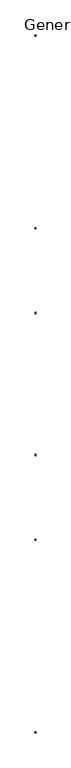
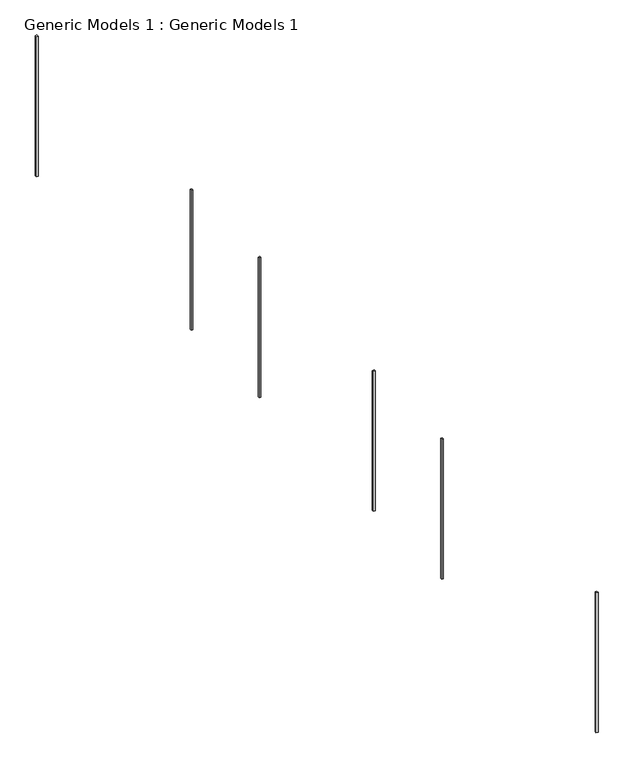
"""IFC4 building model written with IfcOpenShell, lengths in millimetres: proxy geometry, Generic Models 1 : Generic Models 1."""

import ifcopenshell
import ifcopenshell.guid

model = None  # the IFC model being written
_history = None  # IfcOwnerHistory: only IFC2X3 demands one
_inside = {}  # id of a spatial element -> (the spatial element, [elements in it])
_under = {}  # id of a project, library or spatial element -> (it, [spatial elements below it])
_declared = {}  # id of a project -> (the project, [libraries it declares])
_typed = {}  # id of a type object -> (the type object, [elements of that type])
_made_of = {}  # id of a material, layer set ... -> (it, [elements and type objects made of it])


def new_model(schema):
    """Start an empty IFC model of exactly this schema.

    Asked for "IFC4X3", IfcOpenShell would pick the latest addendum, in which some entities
    have other attributes; the version numbers below select the first issue.
    IFC2X3 requires an IfcOwnerHistory on every rooted entity: one is made here for all.
    """
    global model, _history
    if schema == "IFC4X3":
        model = ifcopenshell.file(schema_version=(4, 3, 0, 0))
    else:
        model = ifcopenshell.file(schema=schema)
    _inside.clear()
    _under.clear()
    _declared.clear()
    _typed.clear()
    _made_of.clear()
    _history = None
    if model.schema == "IFC2X3":
        org = make("IfcOrganization", Name="unknown")
        user = make(
            "IfcPersonAndOrganization",
            ThePerson=make("IfcPerson", FamilyName="unknown"),
            TheOrganization=org,
        )
        app = make(
            "IfcApplication",
            ApplicationDeveloper=org,
            Version="unknown",
            ApplicationFullName="unknown",
            ApplicationIdentifier="unknown",
        )
        _history = make(
            "IfcOwnerHistory",
            OwningUser=user,
            OwningApplication=app,
            ChangeAction="ADDED",
            CreationDate=0,
        )
    return model


def make(cls, **values):
    """One entity of the class cls with the attributes given. An attribute that is None is left unset."""
    return model.create_entity(
        cls, **{name: value for name, value in values.items() if value is not None}
    )


def rooted(cls, **values):
    """An entity with a GlobalId (a new one), such as an element, a storey or a relation."""
    return make(cls, GlobalId=ifcopenshell.guid.new(), OwnerHistory=_history, **values)


def si_unit(unit_type, name, prefix=None):
    """IfcSIUnit, for example si_unit("LENGTHUNIT", "METRE", prefix="MILLI")."""
    return make("IfcSIUnit", UnitType=unit_type, Prefix=prefix, Name=name)


def assignment(units):
    """IfcUnitAssignment: the units of a project."""
    return None if units is None else make("IfcUnitAssignment", Units=units)


def point(xyz):
    """IfcCartesianPoint."""
    return None if xyz is None else make("IfcCartesianPoint", Coordinates=xyz)


def direction(xyz):
    """IfcDirection."""
    return None if xyz is None else make("IfcDirection", DirectionRatios=xyz)


def frame(location, z_axis=None, x_axis=None):
    """IfcAxis2Placement3D, a coordinate frame: its origin and axes. An axis left out is left unset."""
    return make(
        "IfcAxis2Placement3D",
        Location=point(location),
        Axis=direction(z_axis),
        RefDirection=direction(x_axis),
    )


def origin():
    """The frame at (0, 0, 0) with its axes left unset."""
    return frame((0.0, 0.0, 0.0))


def place(relative_to, where):
    """IfcLocalPlacement: puts the frame where relative to a parent placement (None: the world)."""
    return make(
        "IfcLocalPlacement", PlacementRelTo=relative_to, RelativePlacement=where
    )


def context(
    kind, dimensions, precision=None, world=None, true_north=None, identifier=None
):
    """IfcGeometricRepresentationContext, for example the 3D "Model" context."""
    return make(
        "IfcGeometricRepresentationContext",
        ContextIdentifier=identifier,
        ContextType=kind,
        CoordinateSpaceDimension=dimensions,
        Precision=precision,
        WorldCoordinateSystem=world,
        TrueNorth=true_north,
    )


def project(units=None, contexts=None):
    """IfcProject with its units and contexts."""
    return rooted(
        "IfcProject",
        Name="project",
        RepresentationContexts=contexts,
        UnitsInContext=assignment(units),
    )


def spatial(cls, under=None, at=None, **own):
    """A site, building, storey or space (cls), placed at a placement, below another one or the project."""
    s = rooted(cls, ObjectPlacement=at, **own)
    if under is not None:
        _under.setdefault(under.id(), (under, []))[1].append(s)
    return s


def polyline(points):
    """IfcPolyline through the points."""
    return make("IfcPolyline", Points=[point(p) for p in points])


def outline(outer, holes=None, kind="AREA"):
    """IfcArbitraryClosedProfileDef: a profile drawn as a closed curve; with holes, ...WithVoids."""
    if holes is None:
        return make("IfcArbitraryClosedProfileDef", ProfileType=kind, OuterCurve=outer)
    return make(
        "IfcArbitraryProfileDefWithVoids",
        ProfileType=kind,
        OuterCurve=outer,
        InnerCurves=holes,
    )


def extrude(swept, where, along, depth):
    """IfcExtrudedAreaSolid: the profile swept, set in the frame where, extruded along a direction by depth."""
    return make(
        "IfcExtrudedAreaSolid",
        SweptArea=swept,
        Position=where,
        ExtrudedDirection=direction(along),
        Depth=depth,
    )


def shape(context_of_items, identifier, shape_type, items):
    """IfcShapeRepresentation: the items that make up one representation, for example the "Body"."""
    return make(
        "IfcShapeRepresentation",
        ContextOfItems=context_of_items,
        RepresentationIdentifier=identifier,
        RepresentationType=shape_type,
        Items=items,
    )


def source(mapping_origin, context_of_items, identifier, shape_type, items):
    """IfcRepresentationMap: a shape defined once, which mapped items show again and again."""
    return make(
        "IfcRepresentationMap",
        MappingOrigin=mapping_origin,
        MappedRepresentation=shape(context_of_items, identifier, shape_type, items),
    )


def transform(
    local_origin,
    x_axis=None,
    y_axis=None,
    z_axis=None,
    scale=None,
    scale2=None,
    scale3=None,
    uniform=True,
):
    """IfcCartesianTransformationOperator3D, or its non-uniform kind. x_axis, y_axis, z_axis: its Axis1, 2, 3."""
    if uniform:
        return make(
            "IfcCartesianTransformationOperator3D",
            Axis1=direction(x_axis),
            Axis2=direction(y_axis),
            LocalOrigin=point(local_origin),
            Scale=scale,
            Axis3=direction(z_axis),
        )
    return make(
        "IfcCartesianTransformationOperator3DnonUniform",
        Axis1=direction(x_axis),
        Axis2=direction(y_axis),
        LocalOrigin=point(local_origin),
        Scale=scale,
        Axis3=direction(z_axis),
        Scale2=scale2,
        Scale3=scale3,
    )


def mapped(mapping_source, mapping_target):
    """IfcMappedItem: shows the shape of a source again, moved by a transform."""
    return make(
        "IfcMappedItem", MappingSource=mapping_source, MappingTarget=mapping_target
    )


def made_of(thing, what):
    """Note that an element or type object is made of a material, layer set ...; save() writes the relation."""
    if what is not None:
        _made_of.setdefault(what.id(), (what, []))[1].append(thing)
    return thing


def element(
    cls,
    number,
    at=None,
    inside=None,
    cuts=None,
    type_object=None,
    material=None,
    context=None,
    identifier="Body",
    shape_type=None,
    held_by="IfcProductDefinitionShape",
    body=None,
    shapes=None,
    **own,
):
    """One element of the class cls, such as IfcWall. Its Tag is "e" and its number.

    at: its placement. inside: the storey or other place that contains it. cuts: it is an
    opening in that element (IfcRelVoidsElement). A single representation is given by context,
    identifier, shape_type and body (its items); several are given by shapes. held_by: the class
    of the entity that holds the representations. save() writes the other relations.
    """
    e = rooted(cls, Tag="e%d" % number, ObjectPlacement=at, **own)
    if body is not None:
        shapes = [shape(context, identifier, shape_type, body)]
    if shapes is not None:
        e.Representation = make(held_by, Representations=shapes)
    if inside is not None:
        _inside.setdefault(inside.id(), (inside, []))[1].append(e)
    if cuts is not None:
        rooted(
            "IfcRelVoidsElement", RelatingBuildingElement=cuts, RelatedOpeningElement=e
        )
    if type_object is not None:
        _typed.setdefault(type_object.id(), (type_object, []))[1].append(e)
    return made_of(e, material)


def aggregate(whole, parts):
    """IfcRelAggregates: a whole, such as a stair, and the parts it consists of."""
    return rooted("IfcRelAggregates", RelatingObject=whole, RelatedObjects=parts)


def save(model, path):
    """Write the relations noted so far, then the file.

    IfcRelAggregates (storeys below a building ...), IfcRelContainedInSpatialStructure (elements
    in a storey), IfcRelDefinesByType, IfcRelAssociatesMaterial and IfcRelDeclares: one each for
    every whole, place, type object, material and project.
    """
    for whole, parts in _under.values():
        aggregate(whole, parts)
    for where, things in _inside.values():
        rooted(
            "IfcRelContainedInSpatialStructure",
            RelatedElements=things,
            RelatingStructure=where,
        )
    for kind, things in _typed.values():
        rooted("IfcRelDefinesByType", RelatedObjects=things, RelatingType=kind)
    for what, things in _made_of.values():
        rooted("IfcRelAssociatesMaterial", RelatedObjects=things, RelatingMaterial=what)
    for by, libraries in _declared.values():
        rooted("IfcRelDeclares", RelatingContext=by, RelatedDefinitions=libraries)
    model.write(path)


def generic_models_1_generic_models_1_7971c2b0(model_context):
    return source(origin(), model_context, "Body", "SweptSolid", [
        extrude(outline(polyline([(8000.6615063, -14559.2038842), (8000.6615063, -14618.7915638), (7941.9790974, -14608.4442718), (7950.6615063, -14559.2038842), (8000.6615063, -14559.2038842)])), frame((0.0, 0.0, -100.0), z_axis=(0.0, 0.0, 1.0), x_axis=(1.0, 0.0, 0.0)), (0.0, 0.0, 1.0), 4450.0),
        extrude(outline(polyline([(8000.6615063, 14550.3829712), (7950.6615063, 14550.3829712), (7941.9790974, 14599.6233588), (8000.6615063, 14609.9706508), (8000.6615063, 14550.3829712)])), frame((0.0, 0.0, -100.0), z_axis=(0.0, 0.0, 1.0), x_axis=(1.0, 0.0, 0.0)), (0.0, 0.0, 1.0), 4450.0),
        extrude(outline(polyline([(7950.6615063, -6504.4104565), (8000.6615063, -6504.4104565), (8000.6615063, -6554.4104565), (7950.6615063, -6554.4104565), (7950.6615063, -6504.4104565)])), frame((0.0, 0.0, -100.0), z_axis=(0.0, 0.0, 1.0), x_axis=(1.0, 0.0, 0.0)), (0.0, 0.0, 1.0), 4450.0),
        extrude(outline(polyline([(7950.6615063, -2954.4104565), (8000.6615063, -2954.4104565), (8000.6615063, -3004.4104565), (7950.6615063, -3004.4104565), (7950.6615063, -2954.4104565)])), frame((0.0, 0.0, -100.0), z_axis=(0.0, 0.0, 1.0), x_axis=(1.0, 0.0, 0.0)), (0.0, 0.0, 1.0), 4450.0),
        extrude(outline(polyline([(7950.6615063, 2995.5895435), (8000.6615063, 2995.5895435), (8000.6615063, 2945.5895435), (7950.6615063, 2945.5895435), (7950.6615063, 2995.5895435)])), frame((0.0, 0.0, -100.0), z_axis=(0.0, 0.0, 1.0), x_axis=(1.0, 0.0, 0.0)), (0.0, 0.0, 1.0), 4450.0),
        extrude(outline(polyline([(7950.6615063, 6545.5895435), (8000.6615063, 6545.5895435), (8000.6615063, 6495.5895435), (7950.6615063, 6495.5895435), (7950.6615063, 6545.5895435)])), frame((0.0, 0.0, -100.0), z_axis=(0.0, 0.0, 1.0), x_axis=(1.0, 0.0, 0.0)), (0.0, 0.0, 1.0), 4450.0),
    ])


if __name__ == "__main__":
    model = new_model("IFC4")
    model_context = context("Model", 3, world=origin())
    ifc_project = project(units=[si_unit("LENGTHUNIT", "METRE", prefix="MILLI")], contexts=[model_context])
    site = spatial("IfcSite", under=ifc_project)
    building = spatial("IfcBuilding", under=site)
    placement = place(None, origin())
    generic_models_1_generic_models_1_shape = generic_models_1_generic_models_1_7971c2b0(model_context)
    element("IfcBuildingElementProxy", 1, Name="Generic Models 1 : Generic Models 1", ObjectType="Generic Models 1 : Generic Models 1", at=placement, inside=building, context=model_context, shape_type="MappedRepresentation", body=[
        mapped(generic_models_1_generic_models_1_shape, transform((0.0, 0.0, 0.0), x_axis=(1.0, 0.0, 0.0), y_axis=(0.0, 1.0, 0.0), z_axis=(0.0, 0.0, 1.0))),
    ])
    save(model, "model.ifc")
